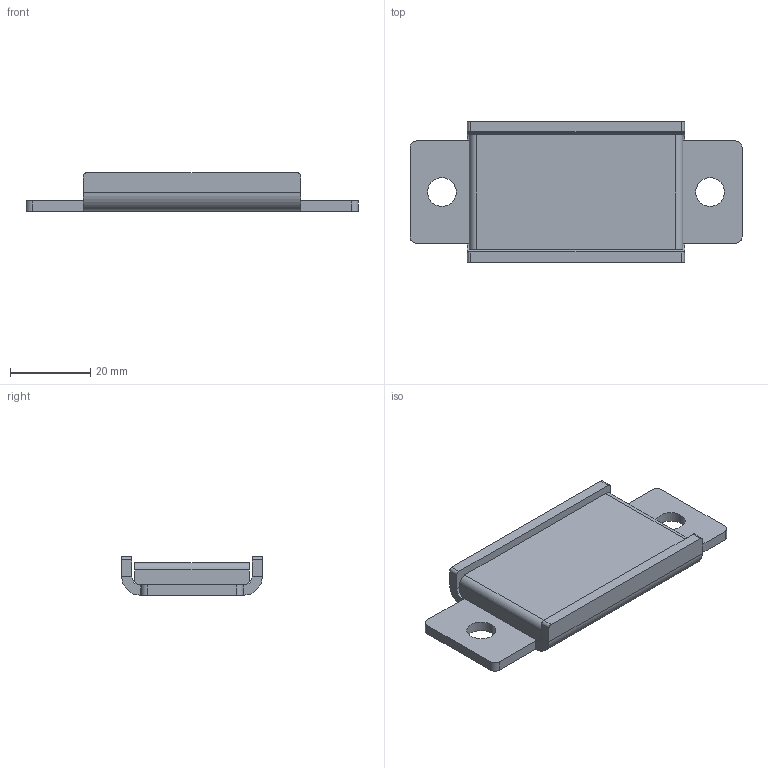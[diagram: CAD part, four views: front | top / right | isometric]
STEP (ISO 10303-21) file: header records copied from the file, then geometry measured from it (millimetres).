
FILE_DESCRIPTION (( 'STEP AP203' ), '1' );
FILE_NAME ('LP2100.STEP', '2018-07-27T13:55:33', ( '' ), ( '' ), 'SwSTEP 2.0', 'SolidWorks 2015', '' );
FILE_SCHEMA (( 'CONFIG_CONTROL_DESIGN' ));
Length unit declared in the file: inch
Products named in the file (1): LP2100
Bounding box: 82.55 x 34.92 x 9.53 mm (x, y, z)
Volume: 9284.6 mm3; surface area: 10658.7 mm2
Topology: 2 solids, 2 shells, 68 faces, 160 edges, 96 vertices
Faces by surface type: plane 44, cylinder 24
Entity records: 2001 total; most frequent: DIRECTION 346, CARTESIAN_POINT 325, ORIENTED_EDGE 320, EDGE_CURVE 160, AXIS2_PLACEMENT_3D 117, VECTOR 112, LINE 112, VERTEX_POINT 96
